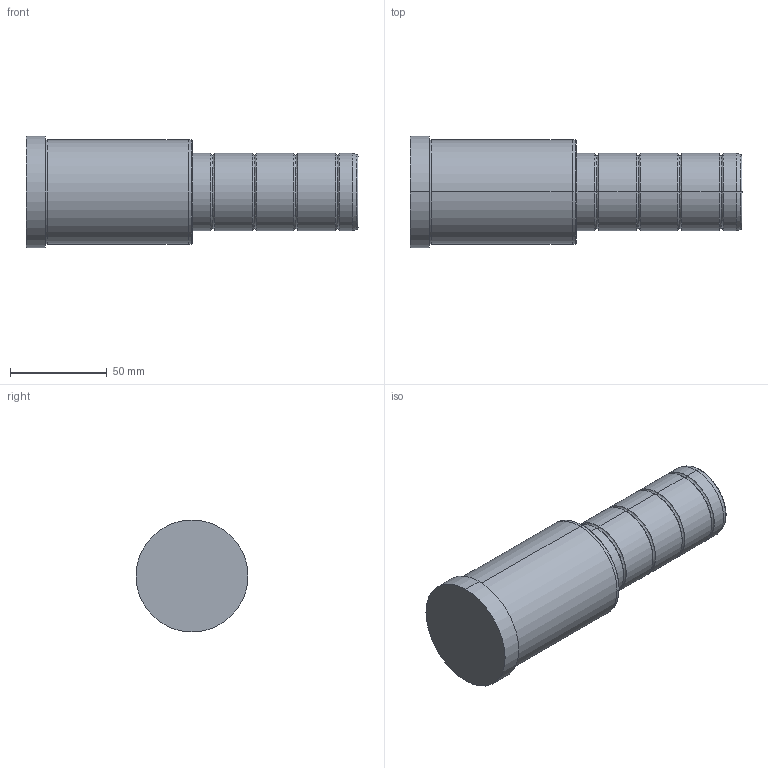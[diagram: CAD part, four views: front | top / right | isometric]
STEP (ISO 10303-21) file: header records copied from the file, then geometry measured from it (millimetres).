
FILE_DESCRIPTION( ( 'STEP AP203' ), '1' );
FILE_NAME( 'C:/Projects/D02 - 40x86x86.step', '2003-01-04T14:12:44', ( ' ' ), ( ' ' ), 'XStep 1.0', ' ', ' ' );
FILE_SCHEMA( ( 'CONFIG_CONTROL_DESIGN' ) );
Length unit declared in the file: metre
Products named in the file (1): 1
Bounding box: 172 x 58 x 58 mm (x, y, z)
Volume: 307722.1 mm3; surface area: 31140.1 mm2
Topology: 1 solids, 1 shells, 48 faces, 94 edges, 52 vertices
Faces by surface type: bspline 26, revolution 22
Entity records: 1523 total; most frequent: CARTESIAN_POINT 617, ORIENTED_EDGE 188, DIRECTION 150, EDGE_CURVE 94, AXIS2_PLACEMENT_3D 53, EDGE_LOOP 52, VERTEX_POINT 52, CIRCLE 52
